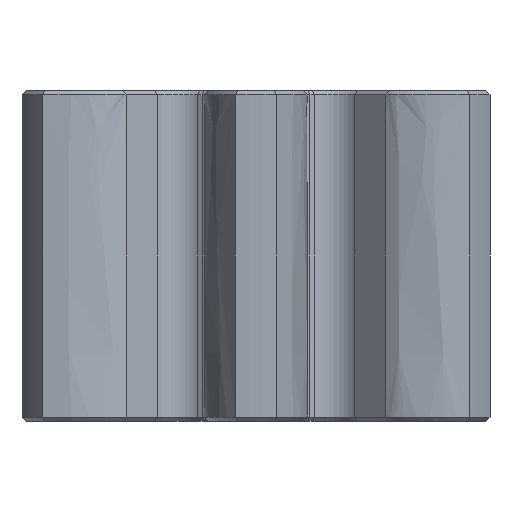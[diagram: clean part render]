
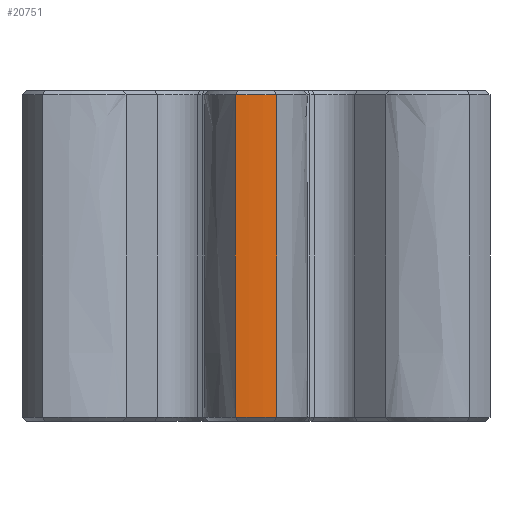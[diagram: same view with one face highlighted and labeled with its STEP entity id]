
A CAD part, left-side view. The second image highlights one B-rep face of the part: STEP entity #20751.
In plain terms, the highlighted cylindrical face has radius 23.5 mm (diameter 47 mm), a partial arc.
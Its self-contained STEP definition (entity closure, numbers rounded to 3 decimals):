
#3379 = CONICAL_SURFACE('',#3380,23.5,0.785);
#3380 = AXIS2_PLACEMENT_3D('',#3381,#3382,#3383);
#3381 = CARTESIAN_POINT('',(0.,0.,0.4));
#3382 = DIRECTION('',(0.,0.,1.));
#3383 = DIRECTION('',(-0.997,0.079,0.));
#8556 = CONICAL_SURFACE('',#8557,23.5,0.785);
#8557 = AXIS2_PLACEMENT_3D('',#8558,#8559,#8560);
#8558 = CARTESIAN_POINT('',(0.,0.,29.6));
#8559 = DIRECTION('',(-0.,-0.,-1.));
#8560 = DIRECTION('',(-0.997,-0.079,0.));
#15331 = VERTEX_POINT('',#15332);
#15332 = CARTESIAN_POINT('',(-23.426,1.862,
    0.4));
#15405 = SURFACE_OF_LINEAR_EXTRUSION('',#15406,#15415);
#15406 = B_SPLINE_CURVE_WITH_KNOTS('',3,(#15407,#15408,#15409,#15410,
    #15411,#15412,#15413,#15414),.UNSPECIFIED.,.F.,.F.,(4,1,1,1,1,4),(0.
    ,0.342,1.369,3.08,5.476,
    8.555),.UNSPECIFIED.);
#15407 = CARTESIAN_POINT('',(-16.271,4.621,0.));
#15408 = CARTESIAN_POINT('',(-16.383,4.643,0.));
#15409 = CARTESIAN_POINT('',(-16.835,4.708,0.));
#15410 = CARTESIAN_POINT('',(-17.87,4.639,0.));
#15411 = CARTESIAN_POINT('',(-19.539,4.226,0.));
#15412 = CARTESIAN_POINT('',(-21.718,3.197,0.));
#15413 = CARTESIAN_POINT('',(-23.196,2.082,0.));
#15414 = CARTESIAN_POINT('',(-23.959,1.41,0.));
#15415 = VECTOR('',#15416,1.);
#15416 = DIRECTION('',(-0.,-0.,-1.));
#15602 = VERTEX_POINT('',#15603);
#15603 = CARTESIAN_POINT('',(-23.426,-1.862,0.4));
#15630 = EDGE_CURVE('',#15331,#15602,#15631,.T.);
#15631 = SURFACE_CURVE('',#15632,(#15637,#15644),.PCURVE_S1.);
#15632 = CIRCLE('',#15633,23.5);
#15633 = AXIS2_PLACEMENT_3D('',#15634,#15635,#15636);
#15634 = CARTESIAN_POINT('',(0.,0.,0.4));
#15635 = DIRECTION('',(0.,0.,1.));
#15636 = DIRECTION('',(-0.997,0.079,0.));
#15637 = PCURVE('',#3379,#15638);
#15638 = DEFINITIONAL_REPRESENTATION('',(#15639),#15643);
#15639 = LINE('',#15640,#15641);
#15640 = CARTESIAN_POINT('',(0.,0.));
#15641 = VECTOR('',#15642,1.);
#15642 = DIRECTION('',(1.,0.));
#15643 = ( GEOMETRIC_REPRESENTATION_CONTEXT(2) 
PARAMETRIC_REPRESENTATION_CONTEXT() REPRESENTATION_CONTEXT('2D SPACE',''
  ) );
#15644 = PCURVE('',#15645,#15650);
#15645 = CYLINDRICAL_SURFACE('',#15646,23.5);
#15646 = AXIS2_PLACEMENT_3D('',#15647,#15648,#15649);
#15647 = CARTESIAN_POINT('',(0.,0.,0.));
#15648 = DIRECTION('',(-0.,-0.,-1.));
#15649 = DIRECTION('',(1.,0.,0.));
#15650 = DEFINITIONAL_REPRESENTATION('',(#15651),#15655);
#15651 = LINE('',#15652,#15653);
#15652 = CARTESIAN_POINT('',(-3.062,-0.4));
#15653 = VECTOR('',#15654,1.);
#15654 = DIRECTION('',(-1.,0.));
#15655 = ( GEOMETRIC_REPRESENTATION_CONTEXT(2) 
PARAMETRIC_REPRESENTATION_CONTEXT() REPRESENTATION_CONTEXT('2D SPACE',''
  ) );
#15788 = SURFACE_OF_LINEAR_EXTRUSION('',#15789,#15798);
#15789 = B_SPLINE_CURVE_WITH_KNOTS('',3,(#15790,#15791,#15792,#15793,
    #15794,#15795,#15796,#15797),.UNSPECIFIED.,.F.,.F.,(4,1,1,1,1,4),(0.
    ,3.08,5.475,7.186,8.213,
    8.555),.UNSPECIFIED.);
#15790 = CARTESIAN_POINT('',(-23.959,-1.41,0.));
#15791 = CARTESIAN_POINT('',(-23.196,-2.082,0.));
#15792 = CARTESIAN_POINT('',(-21.718,-3.197,0.));
#15793 = CARTESIAN_POINT('',(-19.539,-4.226,0.));
#15794 = CARTESIAN_POINT('',(-17.87,-4.639,0.));
#15795 = CARTESIAN_POINT('',(-16.835,-4.708,0.));
#15796 = CARTESIAN_POINT('',(-16.383,-4.643,0.));
#15797 = CARTESIAN_POINT('',(-16.271,-4.621,0.));
#15798 = VECTOR('',#15799,1.);
#15799 = DIRECTION('',(-0.,-0.,-1.));
#19166 = VERTEX_POINT('',#19167);
#19167 = CARTESIAN_POINT('',(-23.426,1.862,
    29.6));
#19407 = VERTEX_POINT('',#19408);
#19408 = CARTESIAN_POINT('',(-23.426,-1.862,29.6));
#19437 = EDGE_CURVE('',#19407,#19166,#19438,.T.);
#19438 = SURFACE_CURVE('',#19439,(#19444,#19451),.PCURVE_S1.);
#19439 = CIRCLE('',#19440,23.5);
#19440 = AXIS2_PLACEMENT_3D('',#19441,#19442,#19443);
#19441 = CARTESIAN_POINT('',(0.,0.,29.6));
#19442 = DIRECTION('',(-0.,0.,-1.));
#19443 = DIRECTION('',(-0.997,-0.079,0.));
#19444 = PCURVE('',#8556,#19445);
#19445 = DEFINITIONAL_REPRESENTATION('',(#19446),#19450);
#19446 = LINE('',#19447,#19448);
#19447 = CARTESIAN_POINT('',(0.,0.));
#19448 = VECTOR('',#19449,1.);
#19449 = DIRECTION('',(1.,0.));
#19450 = ( GEOMETRIC_REPRESENTATION_CONTEXT(2) 
PARAMETRIC_REPRESENTATION_CONTEXT() REPRESENTATION_CONTEXT('2D SPACE',''
  ) );
#19451 = PCURVE('',#15645,#19452);
#19452 = DEFINITIONAL_REPRESENTATION('',(#19453),#19457);
#19453 = LINE('',#19454,#19455);
#19454 = CARTESIAN_POINT('',(-3.221,-29.6));
#19455 = VECTOR('',#19456,1.);
#19456 = DIRECTION('',(1.,-0.));
#19457 = ( GEOMETRIC_REPRESENTATION_CONTEXT(2) 
PARAMETRIC_REPRESENTATION_CONTEXT() REPRESENTATION_CONTEXT('2D SPACE',''
  ) );
#20703 = EDGE_CURVE('',#19166,#15331,#20704,.T.);
#20704 = SURFACE_CURVE('',#20705,(#20708,#20714),.PCURVE_S1.);
#20705 = B_SPLINE_CURVE_WITH_KNOTS('',1,(#20706,#20707),.UNSPECIFIED.,
  .F.,.F.,(2,2),(0.,1.),.PIECEWISE_BEZIER_KNOTS.);
#20706 = CARTESIAN_POINT('',(-23.426,1.862,30.)
  );
#20707 = CARTESIAN_POINT('',(-23.426,1.862,0.));
#20708 = PCURVE('',#15405,#20709);
#20709 = DEFINITIONAL_REPRESENTATION('',(#20710),#20713);
#20710 = B_SPLINE_CURVE_WITH_KNOTS('',1,(#20711,#20712),.UNSPECIFIED.,
  .F.,.F.,(2,2),(0.,1.),.PIECEWISE_BEZIER_KNOTS.);
#20711 = CARTESIAN_POINT('',(7.853,-30.));
#20712 = CARTESIAN_POINT('',(7.853,0.));
#20713 = ( GEOMETRIC_REPRESENTATION_CONTEXT(2) 
PARAMETRIC_REPRESENTATION_CONTEXT() REPRESENTATION_CONTEXT('2D SPACE',''
  ) );
#20714 = PCURVE('',#15645,#20715);
#20715 = DEFINITIONAL_REPRESENTATION('',(#20716),#20719);
#20716 = B_SPLINE_CURVE_WITH_KNOTS('',1,(#20717,#20718),.UNSPECIFIED.,
  .F.,.F.,(2,2),(0.,1.),.PIECEWISE_BEZIER_KNOTS.);
#20717 = CARTESIAN_POINT('',(-3.062,-30.));
#20718 = CARTESIAN_POINT('',(-3.062,0.));
#20719 = ( GEOMETRIC_REPRESENTATION_CONTEXT(2) 
PARAMETRIC_REPRESENTATION_CONTEXT() REPRESENTATION_CONTEXT('2D SPACE',''
  ) );
#20751 = ADVANCED_FACE('',(#20752),#15645,.T.);
#20752 = FACE_BOUND('',#20753,.F.);
#20753 = EDGE_LOOP('',(#20754,#20772,#20773,#20774));
#20754 = ORIENTED_EDGE('',*,*,#20755,.T.);
#20755 = EDGE_CURVE('',#19407,#15602,#20756,.T.);
#20756 = SURFACE_CURVE('',#20757,(#20760,#20766),.PCURVE_S1.);
#20757 = B_SPLINE_CURVE_WITH_KNOTS('',1,(#20758,#20759),.UNSPECIFIED.,
  .F.,.F.,(2,2),(0.,1.),.PIECEWISE_BEZIER_KNOTS.);
#20758 = CARTESIAN_POINT('',(-23.426,-1.862,30.)
  );
#20759 = CARTESIAN_POINT('',(-23.426,-1.862,0.));
#20760 = PCURVE('',#15645,#20761);
#20761 = DEFINITIONAL_REPRESENTATION('',(#20762),#20765);
#20762 = B_SPLINE_CURVE_WITH_KNOTS('',1,(#20763,#20764),.UNSPECIFIED.,
  .F.,.F.,(2,2),(0.,1.),.PIECEWISE_BEZIER_KNOTS.);
#20763 = CARTESIAN_POINT('',(-3.221,-30.));
#20764 = CARTESIAN_POINT('',(-3.221,0.));
#20765 = ( GEOMETRIC_REPRESENTATION_CONTEXT(2) 
PARAMETRIC_REPRESENTATION_CONTEXT() REPRESENTATION_CONTEXT('2D SPACE',''
  ) );
#20766 = PCURVE('',#15788,#20767);
#20767 = DEFINITIONAL_REPRESENTATION('',(#20768),#20771);
#20768 = B_SPLINE_CURVE_WITH_KNOTS('',1,(#20769,#20770),.UNSPECIFIED.,
  .F.,.F.,(2,2),(0.,1.),.PIECEWISE_BEZIER_KNOTS.);
#20769 = CARTESIAN_POINT('',(0.703,-30.));
#20770 = CARTESIAN_POINT('',(0.703,0.));
#20771 = ( GEOMETRIC_REPRESENTATION_CONTEXT(2) 
PARAMETRIC_REPRESENTATION_CONTEXT() REPRESENTATION_CONTEXT('2D SPACE',''
  ) );
#20772 = ORIENTED_EDGE('',*,*,#15630,.F.);
#20773 = ORIENTED_EDGE('',*,*,#20703,.F.);
#20774 = ORIENTED_EDGE('',*,*,#19437,.F.);
